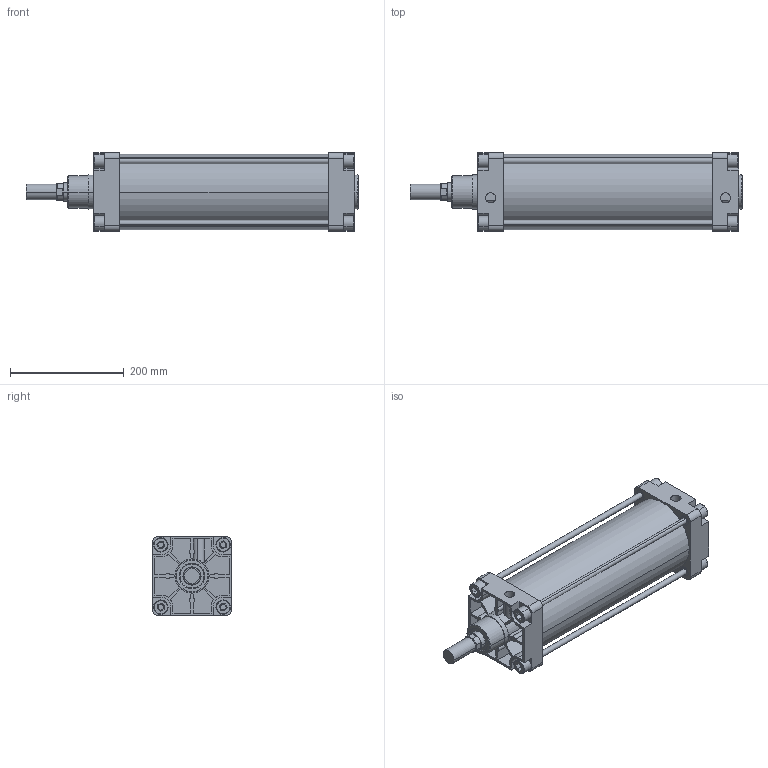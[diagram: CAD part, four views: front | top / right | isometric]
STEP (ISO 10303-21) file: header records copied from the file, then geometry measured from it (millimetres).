
FILE_DESCRIPTION(('CATIA V5 STEP Exchange'),'2;1');
FILE_NAME('D:\stp file for catalog\PNC\125\PNC 125-32-300-00.stp','2015-09-13T12:07:58+00:00',('none'),('none'),'Version 5-6 Release 2012','CATIA V5 STEP AP203','none');
FILE_SCHEMA(('CONFIG_CONTROL_DESIGN'));
Length unit declared in the file: millimetre
Products named in the file (1): PNC 125-32-300-00
Assembly tree (2 placements, depth 2):
  PNC 125-32-300-00
    #58
    #14773
Bounding box: 585 x 139 x 139 mm (x, y, z)
Volume: 3065131.2 mm3; surface area: 684088.1 mm2
Topology: 7 solids, 11 shells, 557 faces, 1420 edges, 938 vertices
Faces by surface type: plane 337, cylinder 174, torus 24, extrusion 16, cone 6
Entity records: 15682 total; most frequent: CARTESIAN_POINT 3254, ORIENTED_EDGE 2840, DIRECTION 1937, EDGE_CURVE 1420, VERTEX_POINT 938, VECTOR 903, LINE 887, AXIS2_PLACEMENT_3D 735
